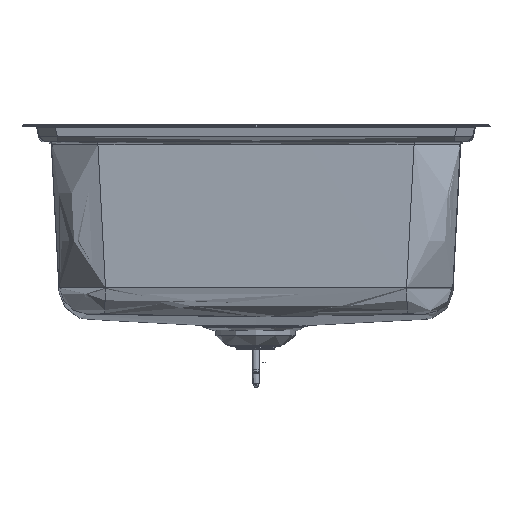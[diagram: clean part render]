
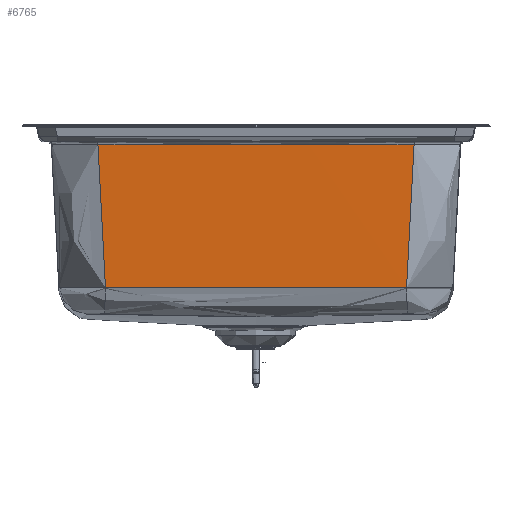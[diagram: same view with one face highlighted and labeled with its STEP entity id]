
A CAD part, front view. The second image highlights one B-rep face of the part: STEP entity #6765.
In plain terms, the highlighted free-form (B-spline) face has degree [2, 1] with [3, 2] control points.
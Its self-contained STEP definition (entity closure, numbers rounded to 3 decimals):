
#2052=TRIMMED_CURVE($,#4043,(#81724),(#81725),.T.,.CARTESIAN.);
#4043=CIRCLE('',#32238,50000.6);
#5260=(
BOUNDED_SURFACE()
B_SPLINE_SURFACE(2,1,((#77399,#77400),(#77401,#77402),(#77403,#77404)),
 .UNSPECIFIED.,.F.,.F.,.F.)
B_SPLINE_SURFACE_WITH_KNOTS((3,3),(2,2),(0.,379.72),(0.,191.437),
 .UNSPECIFIED.)
GEOMETRIC_REPRESENTATION_ITEM()
RATIONAL_B_SPLINE_SURFACE(((1.,1.),(1.,1.),
(1.,1.)))
REPRESENTATION_ITEM('')
SURFACE()
);
#6765=ADVANCED_FACE('',(#8340),#5260,.T.);
#8340=FACE_OUTER_BOUND('',#10002,.T.);
#10002=EDGE_LOOP('',(#18239,#18240,#18241,#18242));
#18239=ORIENTED_EDGE('',*,*,#22875,.T.);
#18240=ORIENTED_EDGE('',*,*,#22924,.T.);
#18241=ORIENTED_EDGE('',*,*,#22918,.T.);
#18242=ORIENTED_EDGE('',*,*,#22920,.T.);
#22875=EDGE_CURVE('',#28251,#28250,#2052,.T.);
#22918=EDGE_CURVE('',#28270,#28261,#25415,.T.);
#22920=EDGE_CURVE('',#28261,#28251,#25417,.T.);
#22924=EDGE_CURVE('',#28250,#28270,#25421,.T.);
#25415=B_SPLINE_CURVE_WITH_KNOTS('',3,(#81969,#81970,#81971,#81972,#81973,
#81974),.UNSPECIFIED.,.F.,.F.,(4,1,1,4),(-328.25,-234.464,
-140.679,0.),.UNSPECIFIED.);
#25417=B_SPLINE_CURVE_WITH_KNOTS('',3,(#81980,#81981,#81982,#81983),
 .UNSPECIFIED.,.F.,.F.,(4,4),(-156.44,0.),.UNSPECIFIED.);
#25421=B_SPLINE_CURVE_WITH_KNOTS('',3,(#81994,#81995,#81996,#81997),
 .UNSPECIFIED.,.F.,.F.,(4,4),(-156.44,0.),.UNSPECIFIED.);
#28250=VERTEX_POINT('',#80611);
#28251=VERTEX_POINT('',#80612);
#28261=VERTEX_POINT('',#80622);
#28270=VERTEX_POINT('',#80631);
#32238=AXIS2_PLACEMENT_3D($,#81723,#37194,#37195);
#37194=DIRECTION('',(0.,0.,-1.));
#37195=DIRECTION('',(0.003,-1.,0.));
#77399=CARTESIAN_POINT('',(-189.821,-214.561,-196.976));
#77400=CARTESIAN_POINT('',(-189.859,-224.58,-5.801));
#77401=CARTESIAN_POINT('',(0.,-215.282,-196.976));
#77402=CARTESIAN_POINT('',(0.,-225.301,-5.801));
#77403=CARTESIAN_POINT('',(189.821,-214.561,-196.976));
#77404=CARTESIAN_POINT('',(189.859,-224.58,-5.801));
#80611=CARTESIAN_POINT('',(-172.245,-223.804,-21.833));
#80612=CARTESIAN_POINT('',(172.245,-223.804,-21.833));
#80622=CARTESIAN_POINT('',(164.088,-215.655,-177.847));
#80631=CARTESIAN_POINT('',(-164.088,-215.655,-177.847));
#81723=CARTESIAN_POINT('',(0.,49776.5,-21.833));
#81724=CARTESIAN_POINT('',(172.245,-223.804,-21.833));
#81725=CARTESIAN_POINT('',(-172.245,-223.804,-21.833));
#81969=CARTESIAN_POINT('',(-164.088,-215.655,-177.847));
#81970=CARTESIAN_POINT('',(-132.842,-215.708,-178.791));
#81971=CARTESIAN_POINT('',(-70.338,-215.774,-180.329));
#81972=CARTESIAN_POINT('',(39.078,-215.793,-180.945));
#81973=CARTESIAN_POINT('',(117.219,-215.734,-179.263));
#81974=CARTESIAN_POINT('',(164.088,-215.655,-177.847));
#81980=CARTESIAN_POINT('',(164.088,-215.655,-177.847));
#81981=CARTESIAN_POINT('',(166.807,-218.371,-125.842));
#81982=CARTESIAN_POINT('',(169.526,-221.087,-73.837));
#81983=CARTESIAN_POINT('',(172.245,-223.804,-21.833));
#81994=CARTESIAN_POINT('',(-172.245,-223.804,-21.833));
#81995=CARTESIAN_POINT('',(-169.526,-221.087,-73.837));
#81996=CARTESIAN_POINT('',(-166.807,-218.371,-125.842));
#81997=CARTESIAN_POINT('',(-164.088,-215.655,-177.847));
